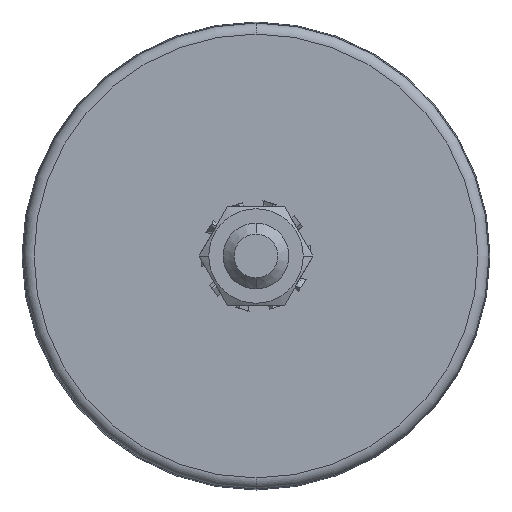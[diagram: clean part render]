
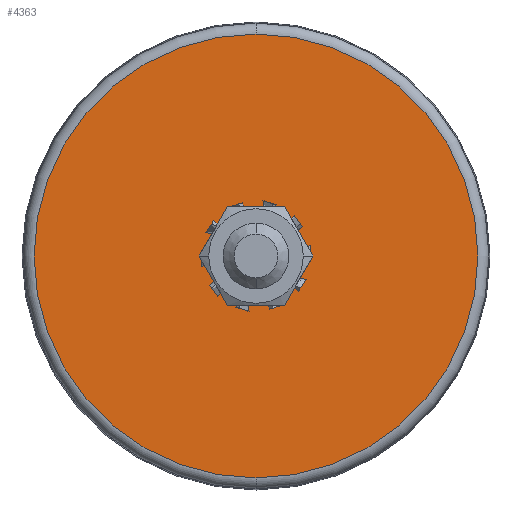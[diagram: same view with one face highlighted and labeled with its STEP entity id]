
A CAD part, front view. The second image highlights one B-rep face of the part: STEP entity #4363.
In plain terms, the highlighted planar face has unit normal (0, -1, 0).
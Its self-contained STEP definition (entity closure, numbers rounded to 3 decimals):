
#59 = FACE_BOUND ( 'NONE', #1437, .T. ) ;
#159 = CARTESIAN_POINT ( 'NONE',  ( 0., 0., 0. ) ) ;
#327 = CARTESIAN_POINT ( 'NONE',  ( 0., 0., 0. ) ) ;
#417 = ORIENTED_EDGE ( 'NONE', *, *, #4845, .T. ) ;
#551 = VERTEX_POINT ( 'NONE', #6119 ) ;
#695 = ORIENTED_EDGE ( 'NONE', *, *, #1189, .T. ) ;
#1189 = EDGE_CURVE ( 'NONE', #5043, #1877, #6029, .T. ) ;
#1242 = VERTEX_POINT ( 'NONE', #4246 ) ;
#1437 = EDGE_LOOP ( 'NONE', ( #417, #4225 ) ) ;
#1496 = FACE_OUTER_BOUND ( 'NONE', #2654, .T. ) ;
#1505 = EDGE_CURVE ( 'NONE', #551, #1242, #7338, .T. ) ;
#1877 = VERTEX_POINT ( 'NONE', #3382 ) ;
#2011 = DIRECTION ( 'NONE',  ( 0., 0., -1. ) ) ;
#2367 = AXIS2_PLACEMENT_3D ( 'NONE', #159, #7143, #3679 ) ;
#2475 = CIRCLE ( 'NONE', #5567, 8. ) ;
#2654 = EDGE_LOOP ( 'NONE', ( #7177, #695 ) ) ;
#3030 = CARTESIAN_POINT ( 'NONE',  ( 0., 0., 0. ) ) ;
#3156 = DIRECTION ( 'NONE',  ( 0., 0., -1. ) ) ;
#3197 = CARTESIAN_POINT ( 'NONE',  ( 6., 0., 0. ) ) ;
#3382 = CARTESIAN_POINT ( 'NONE',  ( 0., 0., -40.5 ) ) ;
#3589 = DIRECTION ( 'NONE',  ( 0., -1., 0. ) ) ;
#3679 = DIRECTION ( 'NONE',  ( 0., 0., -1. ) ) ;
#3769 = DIRECTION ( 'NONE',  ( 0., 0., -1. ) ) ;
#4180 = EDGE_CURVE ( 'NONE', #1877, #5043, #5199, .T. ) ;
#4225 = ORIENTED_EDGE ( 'NONE', *, *, #1505, .T. ) ;
#4246 = CARTESIAN_POINT ( 'NONE',  ( 0., 0., -8. ) ) ;
#4299 = PLANE ( 'NONE',  #5202 ) ;
#4363 = ADVANCED_FACE ( 'NONE', ( #59, #1496 ), #4299, .T. ) ;
#4845 = EDGE_CURVE ( 'NONE', #1242, #551, #2475, .T. ) ;
#4899 = CARTESIAN_POINT ( 'NONE',  ( 0., 0., 0. ) ) ;
#5043 = VERTEX_POINT ( 'NONE', #6195 ) ;
#5199 = CIRCLE ( 'NONE', #6622, 40.5 ) ;
#5202 = AXIS2_PLACEMENT_3D ( 'NONE', #3197, #5493, #3769 ) ;
#5413 = DIRECTION ( 'NONE',  ( 0., 0., -1. ) ) ;
#5493 = DIRECTION ( 'NONE',  ( 0., -1., 0. ) ) ;
#5494 = DIRECTION ( 'NONE',  ( 0., -1., 0. ) ) ;
#5567 = AXIS2_PLACEMENT_3D ( 'NONE', #4899, #6644, #3156 ) ;
#6029 = CIRCLE ( 'NONE', #6037, 40.5 ) ;
#6037 = AXIS2_PLACEMENT_3D ( 'NONE', #327, #5494, #2011 ) ;
#6119 = CARTESIAN_POINT ( 'NONE',  ( 0., 0., 8. ) ) ;
#6195 = CARTESIAN_POINT ( 'NONE',  ( 0., 0., 40.5 ) ) ;
#6622 = AXIS2_PLACEMENT_3D ( 'NONE', #3030, #3589, #5413 ) ;
#6644 = DIRECTION ( 'NONE',  ( 0., 1., 0. ) ) ;
#7143 = DIRECTION ( 'NONE',  ( 0., 1., 0. ) ) ;
#7177 = ORIENTED_EDGE ( 'NONE', *, *, #4180, .T. ) ;
#7338 = CIRCLE ( 'NONE', #2367, 8. ) ;
